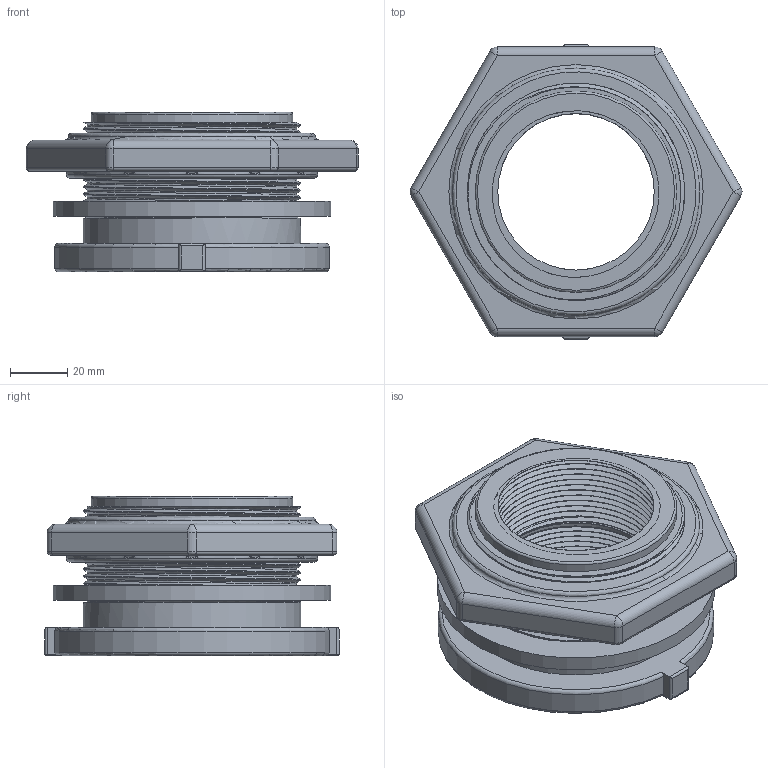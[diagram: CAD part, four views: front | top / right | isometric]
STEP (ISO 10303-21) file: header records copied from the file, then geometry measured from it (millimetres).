
FILE_DESCRIPTION(/* description */ ('Alibre Inc.'),/* implementation_level */ '2;1');
FILE_NAME(/* name */ 'export0',/* time_stamp */ '2017-10-21T13:02:22-04:00',/* author */ (''),/* organization */ (''),/* preprocessor_version */ 'ST-DEVELOPER v14',/* originating_system */ 'Alibre',/* authorisation */ '');
FILE_SCHEMA (('CONFIG_CONTROL_DESIGN'));
Products named in the file (4): ID_1
Bounding box: 116.37 x 103.12 x 55.88 mm (x, y, z)
Volume: 170023.8 mm3; surface area: 85400.5 mm2
Topology: 3 solids, 3 shells, 531 faces, 1410 edges, 899 vertices
Faces by surface type: cylinder 142, cone 138, plane 112, torus 98, bspline 35, sphere 6
Full cylindrical faces by diameter (mm): 54.864 x3, 70.612 x1, 76.2 x1, 77.775 x1, 88.138 x1, 97.282 x1
Entity records: 82320 total; most frequent: CARTESIAN_POINT 69899, ORIENTED_EDGE 2780, DIRECTION 2150, EDGE_CURVE 1390, AXIS2_PLACEMENT_3D 960, VERTEX_POINT 901, EDGE_LOOP 573, FACE_BOUND 573
